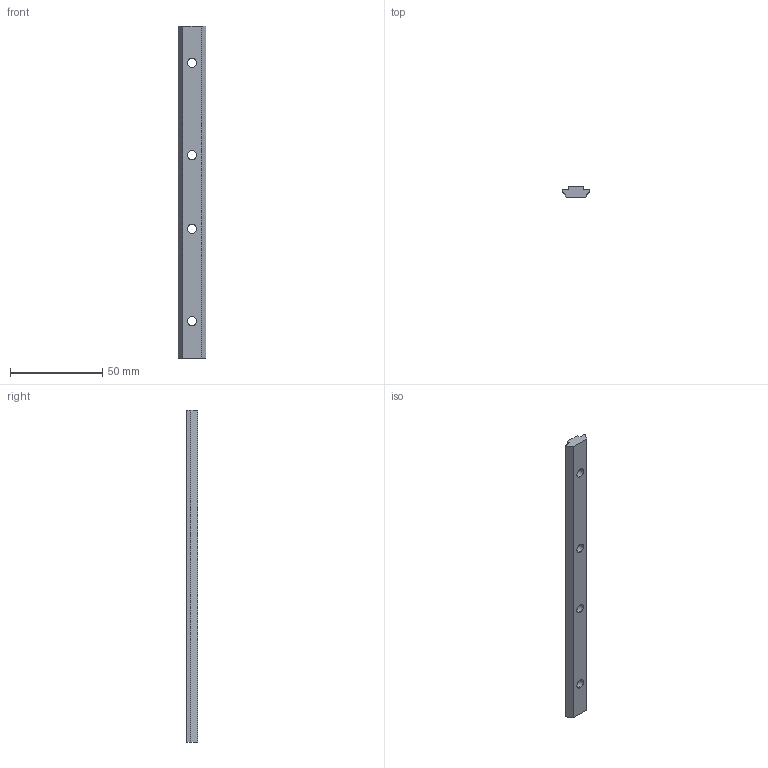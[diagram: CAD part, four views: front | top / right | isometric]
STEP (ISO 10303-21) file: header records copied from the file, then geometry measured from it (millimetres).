
FILE_DESCRIPTION (( 'STEP AP203' ), '1' );
FILE_NAME ('CP-JC30X30.STEP', '2018-03-15T12:59:18', ( '' ), ( '' ), 'SwSTEP 2.0', 'SolidWorks 2013', '' );
FILE_SCHEMA (( 'CONFIG_CONTROL_DESIGN' ));
Length unit declared in the file: millimetre
Products named in the file (1): CP-JC30X30
Bounding box: 15.14 x 6 x 180 mm (x, y, z)
Volume: 11537.9 mm3; surface area: 7262.6 mm2
Topology: 1 solids, 1 shells, 23 faces, 63 edges, 42 vertices
Faces by surface type: cylinder 13, plane 10
Entity records: 836 total; most frequent: DIRECTION 137, CARTESIAN_POINT 129, ORIENTED_EDGE 126, EDGE_CURVE 63, AXIS2_PLACEMENT_3D 50, VERTEX_POINT 42, VECTOR 37, LINE 37
